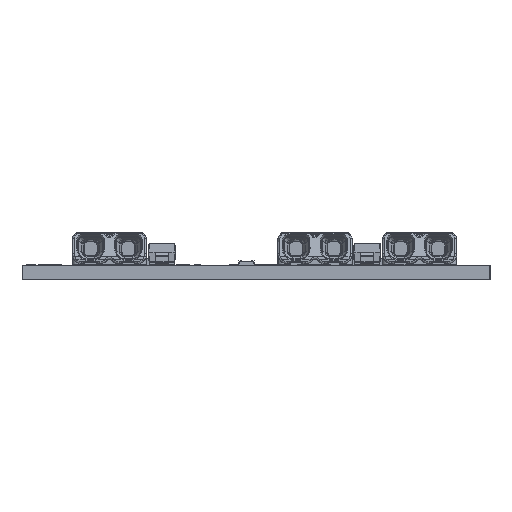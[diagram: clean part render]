
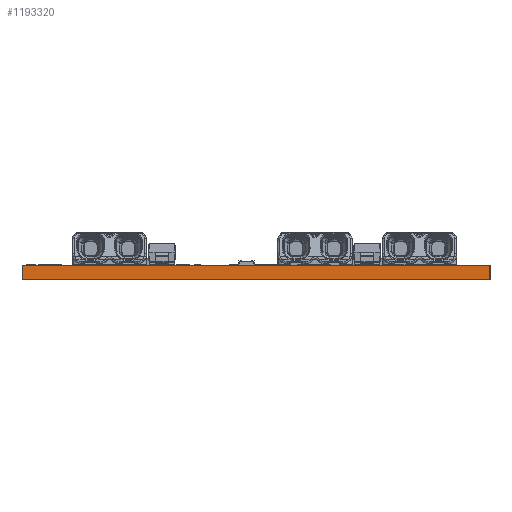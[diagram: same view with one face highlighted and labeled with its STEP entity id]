
A CAD part, left-side view. The second image highlights one B-rep face of the part: STEP entity #1193320.
In plain terms, the highlighted planar face has unit normal (-1, 0, 0).
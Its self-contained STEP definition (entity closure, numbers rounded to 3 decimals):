
#1185550=CARTESIAN_POINT('',(0.,0.,0.));
#1185560=DIRECTION('',(0.,1.,0.));
#1185570=VECTOR('',#1185560,0.039);
#1185580=LINE('',#1185550,#1185570);
#1185590=CARTESIAN_POINT('',(0.,0.,0.));
#1185600=VERTEX_POINT('',#1185590);
#1185610=CARTESIAN_POINT('',(0.,49.5,0.));
#1185620=VERTEX_POINT('',#1185610);
#1185630=EDGE_CURVE('',#1185600,#1185620,#1185580,.T.);
#1189080=CARTESIAN_POINT('',(0.,0.,-1.5));
#1189090=VERTEX_POINT('',#1189080);
#1189240=CARTESIAN_POINT('',(0.,49.5,-1.5));
#1189250=VERTEX_POINT('',#1189240);
#1189280=CARTESIAN_POINT('',(0.,0.,-1.5));
#1189290=DIRECTION('',(0.,1.,0.));
#1189300=VECTOR('',#1189290,0.039);
#1189310=LINE('',#1189280,#1189300);
#1189320=EDGE_CURVE('',#1189090,#1189250,#1189310,.T.);
#1192570=CARTESIAN_POINT('',(0.,0.,0.));
#1192580=DIRECTION('',(0.,0.,-1.));
#1192590=VECTOR('',#1192580,1.);
#1192600=LINE('',#1192570,#1192590);
#1192610=EDGE_CURVE('',#1185600,#1189090,#1192600,.T.);
#1193030=CARTESIAN_POINT('',(0.,49.5,0.));
#1193040=DIRECTION('',(0.,0.,-1.));
#1193050=VECTOR('',#1193040,1.);
#1193060=LINE('',#1193030,#1193050);
#1193070=EDGE_CURVE('',#1185620,#1189250,#1193060,.T.);
#1193210=CARTESIAN_POINT('',(0.,0.,0.));
#1193220=DIRECTION('',(1.,0.,0.));
#1193230=DIRECTION('',(0.,-1.,0.));
#1193240=AXIS2_PLACEMENT_3D('',#1193210,#1193220,#1193230);
#1193250=PLANE('',#1193240);
#1193260=ORIENTED_EDGE('',*,*,#1185630,.T.);
#1193270=ORIENTED_EDGE('',*,*,#1192610,.F.);
#1193280=ORIENTED_EDGE('',*,*,#1189320,.F.);
#1193290=ORIENTED_EDGE('',*,*,#1193070,.T.);
#1193300=EDGE_LOOP('',(#1193290,#1193280,#1193270,#1193260));
#1193310=FACE_OUTER_BOUND('',#1193300,.T.);
#1193320=ADVANCED_FACE('',(#1193310),#1193250,.F.);
